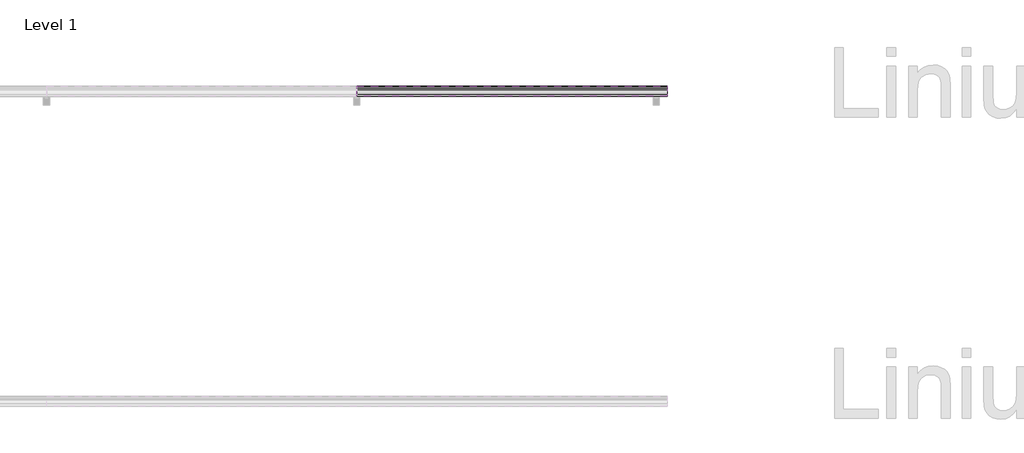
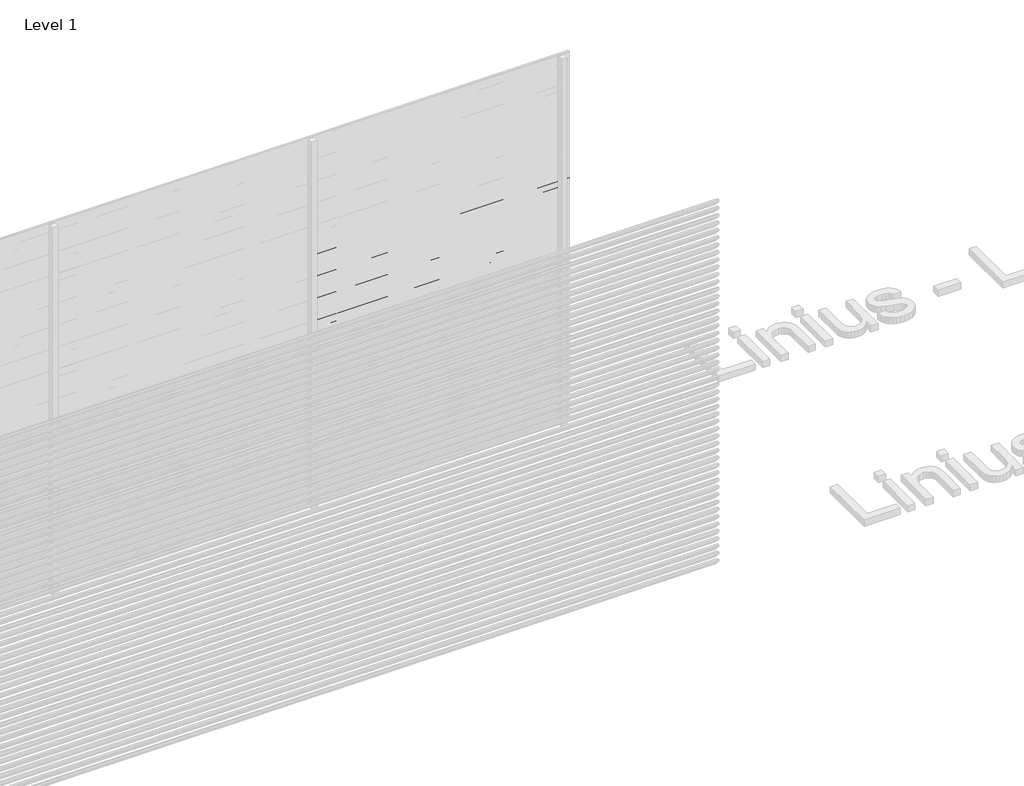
# One storey, part 101 of 153: 33 proxies.
"""IFC4 building model written with IfcOpenShell, lengths in millimetres."""

from ifc_helpers import new_model, si_unit, point, frame, frame_2d, origin, place, context, project, spatial, polyline, circle_curve, trimmed, segment, composite_curve, outline, extrude, element, save

model = new_model("IFC4")

# Units and contexts
model_context = context("Model", 3, world=origin())
ifc_project = project(units=[si_unit("LENGTHUNIT", "METRE", prefix="MILLI")], contexts=[model_context])

# Site, building, storey
site = spatial("IfcSite", under=ifc_project)
building = spatial("IfcBuilding", under=site)
storey = spatial("IfcBuildingStorey", under=building, Name="Level 1", Elevation=0.0)

# Proxies
placement = place(None, origin())
element("IfcBuildingElementProxy", 1, Name="Wall Sweeps", at=placement, inside=storey, context=model_context, shape_type="SweptSolid", body=[
    extrude(outline(composite_curve([segment(polyline([(36485.0540136, 2100.0), (36499.874191, 2098.7034025), (36549.0540136, 2045.0102749), (36549.0540136, 2033.6108187)]), True, "CONTINUOUS"), segment(trimmed(circle_curve(frame_2d((36545.7883652, 2033.897153)), 3.2781774), [point((36549.0540136, 2033.6108187))], [point((36546.4639442, 2030.6893438))], False, "CARTESIAN"), True, "CONTINUOUS"), segment(polyline([(36546.4639442, 2030.6893438), (36534.1895723, 2031.6282758), (36485.0540136, 2085.2730773), (36485.0540136, 2100.0)]), True, "CONTINUOUS")], self_intersect=False), holes=[composite_curve([segment(polyline([(36499.1621773, 2097.2599659), (36486.5540136, 2098.3630372), (36486.5540136, 2085.856213), (36534.8952036, 2033.0786805), (36546.3312542, 2032.2038762)]), True, "CONTINUOUS"), segment(trimmed(circle_curve(frame_2d((36545.7883652, 2033.897153)), 1.7781774), [point((36546.3312542, 2032.2038762))], [point((36547.5540136, 2033.6864389))], True, "CARTESIAN"), True, "CONTINUOUS"), segment(polyline([(36547.5540136, 2033.6864389), (36547.5540136, 2044.4271392), (36499.1621773, 2097.2599659)]), True, "CONTINUOUS")], self_intersect=False)]), frame((48966.6208096, 0.0, 0.0), z_axis=(1.0, 0.0, 0.0), x_axis=(0.0, 1.0, 0.0)), (0.0, 0.0, 1.0), 2000.0000001),
])
element("IfcBuildingElementProxy", 2, Name="Wall Sweeps", at=placement, inside=storey, context=model_context, shape_type="SweptSolid", body=[
    extrude(outline(composite_curve([segment(polyline([(36485.0540136, 2040.0), (36499.874191, 2038.7034025), (36549.0540136, 1985.0102749), (36549.0540136, 1973.6108187)]), True, "CONTINUOUS"), segment(trimmed(circle_curve(frame_2d((36545.7883652, 1973.897153)), 3.2781774), [point((36549.0540136, 1973.6108187))], [point((36546.4639442, 1970.6893438))], False, "CARTESIAN"), True, "CONTINUOUS"), segment(polyline([(36546.4639442, 1970.6893438), (36534.1895723, 1971.6282758), (36485.0540136, 2025.2730773), (36485.0540136, 2040.0)]), True, "CONTINUOUS")], self_intersect=False), holes=[composite_curve([segment(polyline([(36499.1621773, 2037.2599659), (36486.5540136, 2038.3630372), (36486.5540136, 2025.856213), (36534.8952036, 1973.0786805), (36546.3312542, 1972.2038762)]), True, "CONTINUOUS"), segment(trimmed(circle_curve(frame_2d((36545.7883652, 1973.897153)), 1.7781774), [point((36546.3312542, 1972.2038762))], [point((36547.5540136, 1973.6864389))], True, "CARTESIAN"), True, "CONTINUOUS"), segment(polyline([(36547.5540136, 1973.6864389), (36547.5540136, 1984.4271392), (36499.1621773, 2037.2599659)]), True, "CONTINUOUS")], self_intersect=False)]), frame((48966.6208096, 0.0, 0.0), z_axis=(1.0, 0.0, 0.0), x_axis=(0.0, 1.0, 0.0)), (0.0, 0.0, 1.0), 2000.0000001),
])
element("IfcBuildingElementProxy", 3, Name="Wall Sweeps", at=placement, inside=storey, context=model_context, shape_type="SweptSolid", body=[
    extrude(outline(composite_curve([segment(polyline([(36485.0540136, 1980.0), (36499.874191, 1978.7034025), (36549.0540136, 1925.0102749), (36549.0540136, 1913.6108187)]), True, "CONTINUOUS"), segment(trimmed(circle_curve(frame_2d((36545.7883652, 1913.897153)), 3.2781774), [point((36549.0540136, 1913.6108187))], [point((36546.4639442, 1910.6893438))], False, "CARTESIAN"), True, "CONTINUOUS"), segment(polyline([(36546.4639442, 1910.6893438), (36534.1895723, 1911.6282758), (36485.0540136, 1965.2730773), (36485.0540136, 1980.0)]), True, "CONTINUOUS")], self_intersect=False), holes=[composite_curve([segment(polyline([(36499.1621773, 1977.2599659), (36486.5540136, 1978.3630372), (36486.5540136, 1965.856213), (36534.8952036, 1913.0786805), (36546.3312542, 1912.2038762)]), True, "CONTINUOUS"), segment(trimmed(circle_curve(frame_2d((36545.7883652, 1913.897153)), 1.7781774), [point((36546.3312542, 1912.2038762))], [point((36547.5540136, 1913.6864389))], True, "CARTESIAN"), True, "CONTINUOUS"), segment(polyline([(36547.5540136, 1913.6864389), (36547.5540136, 1924.4271392), (36499.1621773, 1977.2599659)]), True, "CONTINUOUS")], self_intersect=False)]), frame((48966.6208096, 0.0, 0.0), z_axis=(1.0, 0.0, 0.0), x_axis=(0.0, 1.0, 0.0)), (0.0, 0.0, 1.0), 2000.0000001),
])
element("IfcBuildingElementProxy", 4, Name="Wall Sweeps", at=placement, inside=storey, context=model_context, shape_type="SweptSolid", body=[
    extrude(outline(composite_curve([segment(polyline([(36485.0540136, 1920.0), (36499.874191, 1918.7034025), (36549.0540136, 1865.0102749), (36549.0540136, 1853.6108187)]), True, "CONTINUOUS"), segment(trimmed(circle_curve(frame_2d((36545.7883652, 1853.897153)), 3.2781774), [point((36549.0540136, 1853.6108187))], [point((36546.4639442, 1850.6893438))], False, "CARTESIAN"), True, "CONTINUOUS"), segment(polyline([(36546.4639442, 1850.6893438), (36534.1895723, 1851.6282758), (36485.0540136, 1905.2730773), (36485.0540136, 1920.0)]), True, "CONTINUOUS")], self_intersect=False), holes=[composite_curve([segment(polyline([(36499.1621773, 1917.2599659), (36486.5540136, 1918.3630372), (36486.5540136, 1905.856213), (36534.8952036, 1853.0786805), (36546.3312542, 1852.2038762)]), True, "CONTINUOUS"), segment(trimmed(circle_curve(frame_2d((36545.7883652, 1853.897153)), 1.7781774), [point((36546.3312542, 1852.2038762))], [point((36547.5540136, 1853.6864389))], True, "CARTESIAN"), True, "CONTINUOUS"), segment(polyline([(36547.5540136, 1853.6864389), (36547.5540136, 1864.4271392), (36499.1621773, 1917.2599659)]), True, "CONTINUOUS")], self_intersect=False)]), frame((48966.6208096, 0.0, 0.0), z_axis=(1.0, 0.0, 0.0), x_axis=(0.0, 1.0, 0.0)), (0.0, 0.0, 1.0), 2000.0000001),
])
element("IfcBuildingElementProxy", 5, Name="Wall Sweeps", at=placement, inside=storey, context=model_context, shape_type="SweptSolid", body=[
    extrude(outline(composite_curve([segment(polyline([(36485.0540136, 1860.0), (36499.874191, 1858.7034025), (36549.0540136, 1805.0102749), (36549.0540136, 1793.6108187)]), True, "CONTINUOUS"), segment(trimmed(circle_curve(frame_2d((36545.7883652, 1793.897153)), 3.2781774), [point((36549.0540136, 1793.6108187))], [point((36546.4639442, 1790.6893438))], False, "CARTESIAN"), True, "CONTINUOUS"), segment(polyline([(36546.4639442, 1790.6893438), (36534.1895723, 1791.6282758), (36485.0540136, 1845.2730773), (36485.0540136, 1860.0)]), True, "CONTINUOUS")], self_intersect=False), holes=[composite_curve([segment(polyline([(36499.1621773, 1857.2599659), (36486.5540136, 1858.3630372), (36486.5540136, 1845.856213), (36534.8952036, 1793.0786805), (36546.3312542, 1792.2038762)]), True, "CONTINUOUS"), segment(trimmed(circle_curve(frame_2d((36545.7883652, 1793.897153)), 1.7781774), [point((36546.3312542, 1792.2038762))], [point((36547.5540136, 1793.6864389))], True, "CARTESIAN"), True, "CONTINUOUS"), segment(polyline([(36547.5540136, 1793.6864389), (36547.5540136, 1804.4271392), (36499.1621773, 1857.2599659)]), True, "CONTINUOUS")], self_intersect=False)]), frame((48966.6208096, 0.0, 0.0), z_axis=(1.0, 0.0, 0.0), x_axis=(0.0, 1.0, 0.0)), (0.0, 0.0, 1.0), 2000.0000001),
])
element("IfcBuildingElementProxy", 6, Name="Wall Sweeps", at=placement, inside=storey, context=model_context, shape_type="SweptSolid", body=[
    extrude(outline(composite_curve([segment(polyline([(36485.0540136, 1800.0), (36499.874191, 1798.7034025), (36549.0540136, 1745.0102749), (36549.0540136, 1733.6108187)]), True, "CONTINUOUS"), segment(trimmed(circle_curve(frame_2d((36545.7883652, 1733.897153)), 3.2781774), [point((36549.0540136, 1733.6108187))], [point((36546.4639442, 1730.6893438))], False, "CARTESIAN"), True, "CONTINUOUS"), segment(polyline([(36546.4639442, 1730.6893438), (36534.1895723, 1731.6282758), (36485.0540136, 1785.2730773), (36485.0540136, 1800.0)]), True, "CONTINUOUS")], self_intersect=False), holes=[composite_curve([segment(polyline([(36499.1621773, 1797.2599659), (36486.5540136, 1798.3630372), (36486.5540136, 1785.856213), (36534.8952036, 1733.0786805), (36546.3312542, 1732.2038762)]), True, "CONTINUOUS"), segment(trimmed(circle_curve(frame_2d((36545.7883652, 1733.897153)), 1.7781774), [point((36546.3312542, 1732.2038762))], [point((36547.5540136, 1733.6864389))], True, "CARTESIAN"), True, "CONTINUOUS"), segment(polyline([(36547.5540136, 1733.6864389), (36547.5540136, 1744.4271392), (36499.1621773, 1797.2599659)]), True, "CONTINUOUS")], self_intersect=False)]), frame((48966.6208096, 0.0, 0.0), z_axis=(1.0, 0.0, 0.0), x_axis=(0.0, 1.0, 0.0)), (0.0, 0.0, 1.0), 2000.0000001),
])
element("IfcBuildingElementProxy", 7, Name="Wall Sweeps", at=placement, inside=storey, context=model_context, shape_type="SweptSolid", body=[
    extrude(outline(composite_curve([segment(polyline([(36485.0540136, 1740.0), (36499.874191, 1738.7034025), (36549.0540136, 1685.0102749), (36549.0540136, 1673.6108187)]), True, "CONTINUOUS"), segment(trimmed(circle_curve(frame_2d((36545.7883652, 1673.897153)), 3.2781774), [point((36549.0540136, 1673.6108187))], [point((36546.4639442, 1670.6893438))], False, "CARTESIAN"), True, "CONTINUOUS"), segment(polyline([(36546.4639442, 1670.6893438), (36534.1895723, 1671.6282758), (36485.0540136, 1725.2730773), (36485.0540136, 1740.0)]), True, "CONTINUOUS")], self_intersect=False), holes=[composite_curve([segment(polyline([(36499.1621773, 1737.2599659), (36486.5540136, 1738.3630372), (36486.5540136, 1725.856213), (36534.8952036, 1673.0786805), (36546.3312542, 1672.2038762)]), True, "CONTINUOUS"), segment(trimmed(circle_curve(frame_2d((36545.7883652, 1673.897153)), 1.7781774), [point((36546.3312542, 1672.2038762))], [point((36547.5540136, 1673.6864389))], True, "CARTESIAN"), True, "CONTINUOUS"), segment(polyline([(36547.5540136, 1673.6864389), (36547.5540136, 1684.4271392), (36499.1621773, 1737.2599659)]), True, "CONTINUOUS")], self_intersect=False)]), frame((48966.6208096, 0.0, 0.0), z_axis=(1.0, 0.0, 0.0), x_axis=(0.0, 1.0, 0.0)), (0.0, 0.0, 1.0), 2000.0000001),
])
element("IfcBuildingElementProxy", 8, Name="Wall Sweeps", at=placement, inside=storey, context=model_context, shape_type="SweptSolid", body=[
    extrude(outline(composite_curve([segment(polyline([(36485.0540136, 1680.0), (36499.874191, 1678.7034025), (36549.0540136, 1625.0102749), (36549.0540136, 1613.6108187)]), True, "CONTINUOUS"), segment(trimmed(circle_curve(frame_2d((36545.7883652, 1613.897153)), 3.2781774), [point((36549.0540136, 1613.6108187))], [point((36546.4639442, 1610.6893438))], False, "CARTESIAN"), True, "CONTINUOUS"), segment(polyline([(36546.4639442, 1610.6893438), (36534.1895723, 1611.6282758), (36485.0540136, 1665.2730773), (36485.0540136, 1680.0)]), True, "CONTINUOUS")], self_intersect=False), holes=[composite_curve([segment(polyline([(36499.1621773, 1677.2599659), (36486.5540136, 1678.3630372), (36486.5540136, 1665.856213), (36534.8952036, 1613.0786805), (36546.3312542, 1612.2038762)]), True, "CONTINUOUS"), segment(trimmed(circle_curve(frame_2d((36545.7883652, 1613.897153)), 1.7781774), [point((36546.3312542, 1612.2038762))], [point((36547.5540136, 1613.6864389))], True, "CARTESIAN"), True, "CONTINUOUS"), segment(polyline([(36547.5540136, 1613.6864389), (36547.5540136, 1624.4271392), (36499.1621773, 1677.2599659)]), True, "CONTINUOUS")], self_intersect=False)]), frame((48966.6208096, 0.0, 0.0), z_axis=(1.0, 0.0, 0.0), x_axis=(0.0, 1.0, 0.0)), (0.0, 0.0, 1.0), 2000.0000001),
])
element("IfcBuildingElementProxy", 9, Name="Wall Sweeps", at=placement, inside=storey, context=model_context, shape_type="SweptSolid", body=[
    extrude(outline(composite_curve([segment(polyline([(36485.0540136, 1620.0), (36499.874191, 1618.7034025), (36549.0540136, 1565.0102749), (36549.0540136, 1553.6108187)]), True, "CONTINUOUS"), segment(trimmed(circle_curve(frame_2d((36545.7883652, 1553.897153)), 3.2781774), [point((36549.0540136, 1553.6108187))], [point((36546.4639442, 1550.6893438))], False, "CARTESIAN"), True, "CONTINUOUS"), segment(polyline([(36546.4639442, 1550.6893438), (36534.1895723, 1551.6282758), (36485.0540136, 1605.2730773), (36485.0540136, 1620.0)]), True, "CONTINUOUS")], self_intersect=False), holes=[composite_curve([segment(polyline([(36499.1621773, 1617.2599659), (36486.5540136, 1618.3630372), (36486.5540136, 1605.856213), (36534.8952036, 1553.0786805), (36546.3312542, 1552.2038762)]), True, "CONTINUOUS"), segment(trimmed(circle_curve(frame_2d((36545.7883652, 1553.897153)), 1.7781774), [point((36546.3312542, 1552.2038762))], [point((36547.5540136, 1553.6864389))], True, "CARTESIAN"), True, "CONTINUOUS"), segment(polyline([(36547.5540136, 1553.6864389), (36547.5540136, 1564.4271392), (36499.1621773, 1617.2599659)]), True, "CONTINUOUS")], self_intersect=False)]), frame((48966.6208096, 0.0, 0.0), z_axis=(1.0, 0.0, 0.0), x_axis=(0.0, 1.0, 0.0)), (0.0, 0.0, 1.0), 2000.0000001),
])
element("IfcBuildingElementProxy", 10, Name="Wall Sweeps", at=placement, inside=storey, context=model_context, shape_type="SweptSolid", body=[
    extrude(outline(composite_curve([segment(polyline([(36485.0540136, 1560.0), (36499.874191, 1558.7034025), (36549.0540136, 1505.0102749), (36549.0540136, 1493.6108187)]), True, "CONTINUOUS"), segment(trimmed(circle_curve(frame_2d((36545.7883652, 1493.897153)), 3.2781774), [point((36549.0540136, 1493.6108187))], [point((36546.4639442, 1490.6893438))], False, "CARTESIAN"), True, "CONTINUOUS"), segment(polyline([(36546.4639442, 1490.6893438), (36534.1895723, 1491.6282758), (36485.0540136, 1545.2730773), (36485.0540136, 1560.0)]), True, "CONTINUOUS")], self_intersect=False), holes=[composite_curve([segment(polyline([(36499.1621773, 1557.2599659), (36486.5540136, 1558.3630372), (36486.5540136, 1545.856213), (36534.8952036, 1493.0786805), (36546.3312542, 1492.2038762)]), True, "CONTINUOUS"), segment(trimmed(circle_curve(frame_2d((36545.7883652, 1493.897153)), 1.7781774), [point((36546.3312542, 1492.2038762))], [point((36547.5540136, 1493.6864389))], True, "CARTESIAN"), True, "CONTINUOUS"), segment(polyline([(36547.5540136, 1493.6864389), (36547.5540136, 1504.4271392), (36499.1621773, 1557.2599659)]), True, "CONTINUOUS")], self_intersect=False)]), frame((48966.6208096, 0.0, 0.0), z_axis=(1.0, 0.0, 0.0), x_axis=(0.0, 1.0, 0.0)), (0.0, 0.0, 1.0), 2000.0000001),
])
element("IfcBuildingElementProxy", 11, Name="Wall Sweeps", at=placement, inside=storey, context=model_context, shape_type="SweptSolid", body=[
    extrude(outline(composite_curve([segment(polyline([(36485.0540136, 1500.0), (36499.874191, 1498.7034025), (36549.0540136, 1445.0102749), (36549.0540136, 1433.6108187)]), True, "CONTINUOUS"), segment(trimmed(circle_curve(frame_2d((36545.7883652, 1433.897153)), 3.2781774), [point((36549.0540136, 1433.6108187))], [point((36546.4639442, 1430.6893438))], False, "CARTESIAN"), True, "CONTINUOUS"), segment(polyline([(36546.4639442, 1430.6893438), (36534.1895723, 1431.6282758), (36485.0540136, 1485.2730773), (36485.0540136, 1500.0)]), True, "CONTINUOUS")], self_intersect=False), holes=[composite_curve([segment(polyline([(36499.1621773, 1497.2599659), (36486.5540136, 1498.3630372), (36486.5540136, 1485.856213), (36534.8952036, 1433.0786805), (36546.3312542, 1432.2038762)]), True, "CONTINUOUS"), segment(trimmed(circle_curve(frame_2d((36545.7883652, 1433.897153)), 1.7781774), [point((36546.3312542, 1432.2038762))], [point((36547.5540136, 1433.6864389))], True, "CARTESIAN"), True, "CONTINUOUS"), segment(polyline([(36547.5540136, 1433.6864389), (36547.5540136, 1444.4271392), (36499.1621773, 1497.2599659)]), True, "CONTINUOUS")], self_intersect=False)]), frame((48966.6208096, 0.0, 0.0), z_axis=(1.0, 0.0, 0.0), x_axis=(0.0, 1.0, 0.0)), (0.0, 0.0, 1.0), 2000.0000001),
])
element("IfcBuildingElementProxy", 12, Name="Wall Sweeps", at=placement, inside=storey, context=model_context, shape_type="SweptSolid", body=[
    extrude(outline(composite_curve([segment(polyline([(36485.0540136, 1440.0), (36499.874191, 1438.7034025), (36549.0540136, 1385.0102749), (36549.0540136, 1373.6108187)]), True, "CONTINUOUS"), segment(trimmed(circle_curve(frame_2d((36545.7883652, 1373.897153)), 3.2781774), [point((36549.0540136, 1373.6108187))], [point((36546.4639442, 1370.6893438))], False, "CARTESIAN"), True, "CONTINUOUS"), segment(polyline([(36546.4639442, 1370.6893438), (36534.1895723, 1371.6282758), (36485.0540136, 1425.2730773), (36485.0540136, 1440.0)]), True, "CONTINUOUS")], self_intersect=False), holes=[composite_curve([segment(polyline([(36499.1621773, 1437.2599659), (36486.5540136, 1438.3630372), (36486.5540136, 1425.856213), (36534.8952036, 1373.0786805), (36546.3312542, 1372.2038762)]), True, "CONTINUOUS"), segment(trimmed(circle_curve(frame_2d((36545.7883652, 1373.897153)), 1.7781774), [point((36546.3312542, 1372.2038762))], [point((36547.5540136, 1373.6864389))], True, "CARTESIAN"), True, "CONTINUOUS"), segment(polyline([(36547.5540136, 1373.6864389), (36547.5540136, 1384.4271392), (36499.1621773, 1437.2599659)]), True, "CONTINUOUS")], self_intersect=False)]), frame((48966.6208096, 0.0, 0.0), z_axis=(1.0, 0.0, 0.0), x_axis=(0.0, 1.0, 0.0)), (0.0, 0.0, 1.0), 2000.0000001),
])
element("IfcBuildingElementProxy", 13, Name="Wall Sweeps", at=placement, inside=storey, context=model_context, shape_type="SweptSolid", body=[
    extrude(outline(composite_curve([segment(polyline([(36485.0540136, 1380.0), (36499.874191, 1378.7034025), (36549.0540136, 1325.0102749), (36549.0540136, 1313.6108187)]), True, "CONTINUOUS"), segment(trimmed(circle_curve(frame_2d((36545.7883652, 1313.897153)), 3.2781774), [point((36549.0540136, 1313.6108187))], [point((36546.4639442, 1310.6893438))], False, "CARTESIAN"), True, "CONTINUOUS"), segment(polyline([(36546.4639442, 1310.6893438), (36534.1895723, 1311.6282758), (36485.0540136, 1365.2730773), (36485.0540136, 1380.0)]), True, "CONTINUOUS")], self_intersect=False), holes=[composite_curve([segment(polyline([(36499.1621773, 1377.2599659), (36486.5540136, 1378.3630372), (36486.5540136, 1365.856213), (36534.8952036, 1313.0786805), (36546.3312542, 1312.2038762)]), True, "CONTINUOUS"), segment(trimmed(circle_curve(frame_2d((36545.7883652, 1313.897153)), 1.7781774), [point((36546.3312542, 1312.2038762))], [point((36547.5540136, 1313.6864389))], True, "CARTESIAN"), True, "CONTINUOUS"), segment(polyline([(36547.5540136, 1313.6864389), (36547.5540136, 1324.4271392), (36499.1621773, 1377.2599659)]), True, "CONTINUOUS")], self_intersect=False)]), frame((48966.6208096, 0.0, 0.0), z_axis=(1.0, 0.0, 0.0), x_axis=(0.0, 1.0, 0.0)), (0.0, 0.0, 1.0), 2000.0000001),
])
element("IfcBuildingElementProxy", 14, Name="Wall Sweeps", at=placement, inside=storey, context=model_context, shape_type="SweptSolid", body=[
    extrude(outline(composite_curve([segment(polyline([(36485.0540136, 1320.0), (36499.874191, 1318.7034025), (36549.0540136, 1265.0102749), (36549.0540136, 1253.6108187)]), True, "CONTINUOUS"), segment(trimmed(circle_curve(frame_2d((36545.7883652, 1253.897153)), 3.2781774), [point((36549.0540136, 1253.6108187))], [point((36546.4639442, 1250.6893438))], False, "CARTESIAN"), True, "CONTINUOUS"), segment(polyline([(36546.4639442, 1250.6893438), (36534.1895723, 1251.6282758), (36485.0540136, 1305.2730773), (36485.0540136, 1320.0)]), True, "CONTINUOUS")], self_intersect=False), holes=[composite_curve([segment(polyline([(36499.1621773, 1317.2599659), (36486.5540136, 1318.3630372), (36486.5540136, 1305.856213), (36534.8952036, 1253.0786805), (36546.3312542, 1252.2038762)]), True, "CONTINUOUS"), segment(trimmed(circle_curve(frame_2d((36545.7883652, 1253.897153)), 1.7781774), [point((36546.3312542, 1252.2038762))], [point((36547.5540136, 1253.6864389))], True, "CARTESIAN"), True, "CONTINUOUS"), segment(polyline([(36547.5540136, 1253.6864389), (36547.5540136, 1264.4271392), (36499.1621773, 1317.2599659)]), True, "CONTINUOUS")], self_intersect=False)]), frame((48966.6208096, 0.0, 0.0), z_axis=(1.0, 0.0, 0.0), x_axis=(0.0, 1.0, 0.0)), (0.0, 0.0, 1.0), 2000.0000001),
])
element("IfcBuildingElementProxy", 15, Name="Wall Sweeps", at=placement, inside=storey, context=model_context, shape_type="SweptSolid", body=[
    extrude(outline(composite_curve([segment(polyline([(36485.0540136, 1260.0), (36499.874191, 1258.7034025), (36549.0540136, 1205.0102749), (36549.0540136, 1193.6108187)]), True, "CONTINUOUS"), segment(trimmed(circle_curve(frame_2d((36545.7883652, 1193.897153)), 3.2781774), [point((36549.0540136, 1193.6108187))], [point((36546.4639442, 1190.6893438))], False, "CARTESIAN"), True, "CONTINUOUS"), segment(polyline([(36546.4639442, 1190.6893438), (36534.1895723, 1191.6282758), (36485.0540136, 1245.2730773), (36485.0540136, 1260.0)]), True, "CONTINUOUS")], self_intersect=False), holes=[composite_curve([segment(polyline([(36499.1621773, 1257.2599659), (36486.5540136, 1258.3630372), (36486.5540136, 1245.856213), (36534.8952036, 1193.0786805), (36546.3312542, 1192.2038762)]), True, "CONTINUOUS"), segment(trimmed(circle_curve(frame_2d((36545.7883652, 1193.897153)), 1.7781774), [point((36546.3312542, 1192.2038762))], [point((36547.5540136, 1193.6864389))], True, "CARTESIAN"), True, "CONTINUOUS"), segment(polyline([(36547.5540136, 1193.6864389), (36547.5540136, 1204.4271392), (36499.1621773, 1257.2599659)]), True, "CONTINUOUS")], self_intersect=False)]), frame((48966.6208096, 0.0, 0.0), z_axis=(1.0, 0.0, 0.0), x_axis=(0.0, 1.0, 0.0)), (0.0, 0.0, 1.0), 2000.0000001),
])
element("IfcBuildingElementProxy", 16, Name="Wall Sweeps", at=placement, inside=storey, context=model_context, shape_type="SweptSolid", body=[
    extrude(outline(composite_curve([segment(polyline([(36485.0540136, 1200.0), (36499.874191, 1198.7034025), (36549.0540136, 1145.0102749), (36549.0540136, 1133.6108187)]), True, "CONTINUOUS"), segment(trimmed(circle_curve(frame_2d((36545.7883652, 1133.897153)), 3.2781774), [point((36549.0540136, 1133.6108187))], [point((36546.4639442, 1130.6893438))], False, "CARTESIAN"), True, "CONTINUOUS"), segment(polyline([(36546.4639442, 1130.6893438), (36534.1895723, 1131.6282758), (36485.0540136, 1185.2730773), (36485.0540136, 1200.0)]), True, "CONTINUOUS")], self_intersect=False), holes=[composite_curve([segment(polyline([(36499.1621773, 1197.2599659), (36486.5540136, 1198.3630372), (36486.5540136, 1185.856213), (36534.8952036, 1133.0786805), (36546.3312542, 1132.2038762)]), True, "CONTINUOUS"), segment(trimmed(circle_curve(frame_2d((36545.7883652, 1133.897153)), 1.7781774), [point((36546.3312542, 1132.2038762))], [point((36547.5540136, 1133.6864389))], True, "CARTESIAN"), True, "CONTINUOUS"), segment(polyline([(36547.5540136, 1133.6864389), (36547.5540136, 1144.4271392), (36499.1621773, 1197.2599659)]), True, "CONTINUOUS")], self_intersect=False)]), frame((48966.6208096, 0.0, 0.0), z_axis=(1.0, 0.0, 0.0), x_axis=(0.0, 1.0, 0.0)), (0.0, 0.0, 1.0), 2000.0000001),
])
element("IfcBuildingElementProxy", 17, Name="Wall Sweeps", at=placement, inside=storey, context=model_context, shape_type="SweptSolid", body=[
    extrude(outline(composite_curve([segment(polyline([(36485.0540136, 1140.0), (36499.874191, 1138.7034025), (36549.0540136, 1085.0102749), (36549.0540136, 1073.6108187)]), True, "CONTINUOUS"), segment(trimmed(circle_curve(frame_2d((36545.7883652, 1073.897153)), 3.2781774), [point((36549.0540136, 1073.6108187))], [point((36546.4639442, 1070.6893438))], False, "CARTESIAN"), True, "CONTINUOUS"), segment(polyline([(36546.4639442, 1070.6893438), (36534.1895723, 1071.6282758), (36485.0540136, 1125.2730773), (36485.0540136, 1140.0)]), True, "CONTINUOUS")], self_intersect=False), holes=[composite_curve([segment(polyline([(36499.1621773, 1137.2599659), (36486.5540136, 1138.3630372), (36486.5540136, 1125.856213), (36534.8952036, 1073.0786805), (36546.3312542, 1072.2038762)]), True, "CONTINUOUS"), segment(trimmed(circle_curve(frame_2d((36545.7883652, 1073.897153)), 1.7781774), [point((36546.3312542, 1072.2038762))], [point((36547.5540136, 1073.6864389))], True, "CARTESIAN"), True, "CONTINUOUS"), segment(polyline([(36547.5540136, 1073.6864389), (36547.5540136, 1084.4271392), (36499.1621773, 1137.2599659)]), True, "CONTINUOUS")], self_intersect=False)]), frame((48966.6208096, 0.0, 0.0), z_axis=(1.0, 0.0, 0.0), x_axis=(0.0, 1.0, 0.0)), (0.0, 0.0, 1.0), 2000.0000001),
])
element("IfcBuildingElementProxy", 18, Name="Wall Sweeps", at=placement, inside=storey, context=model_context, shape_type="SweptSolid", body=[
    extrude(outline(composite_curve([segment(polyline([(36485.0540136, 1080.0), (36499.874191, 1078.7034025), (36549.0540136, 1025.0102749), (36549.0540136, 1013.6108187)]), True, "CONTINUOUS"), segment(trimmed(circle_curve(frame_2d((36545.7883652, 1013.897153)), 3.2781774), [point((36549.0540136, 1013.6108187))], [point((36546.4639442, 1010.6893438))], False, "CARTESIAN"), True, "CONTINUOUS"), segment(polyline([(36546.4639442, 1010.6893438), (36534.1895723, 1011.6282758), (36485.0540136, 1065.2730773), (36485.0540136, 1080.0)]), True, "CONTINUOUS")], self_intersect=False), holes=[composite_curve([segment(polyline([(36499.1621773, 1077.2599659), (36486.5540136, 1078.3630372), (36486.5540136, 1065.856213), (36534.8952036, 1013.0786805), (36546.3312542, 1012.2038762)]), True, "CONTINUOUS"), segment(trimmed(circle_curve(frame_2d((36545.7883652, 1013.897153)), 1.7781774), [point((36546.3312542, 1012.2038762))], [point((36547.5540136, 1013.6864389))], True, "CARTESIAN"), True, "CONTINUOUS"), segment(polyline([(36547.5540136, 1013.6864389), (36547.5540136, 1024.4271392), (36499.1621773, 1077.2599659)]), True, "CONTINUOUS")], self_intersect=False)]), frame((48966.6208096, 0.0, 0.0), z_axis=(1.0, 0.0, 0.0), x_axis=(0.0, 1.0, 0.0)), (0.0, 0.0, 1.0), 2000.0000001),
])
element("IfcBuildingElementProxy", 19, Name="Wall Sweeps", at=placement, inside=storey, context=model_context, shape_type="SweptSolid", body=[
    extrude(outline(composite_curve([segment(polyline([(36485.0540136, 1020.0), (36499.874191, 1018.7034025), (36549.0540136, 965.0102749), (36549.0540136, 953.6108187)]), True, "CONTINUOUS"), segment(trimmed(circle_curve(frame_2d((36545.7883652, 953.897153)), 3.2781774), [point((36549.0540136, 953.6108187))], [point((36546.4639442, 950.6893438))], False, "CARTESIAN"), True, "CONTINUOUS"), segment(polyline([(36546.4639442, 950.6893438), (36534.1895723, 951.6282758), (36485.0540136, 1005.2730773), (36485.0540136, 1020.0)]), True, "CONTINUOUS")], self_intersect=False), holes=[composite_curve([segment(polyline([(36499.1621773, 1017.2599659), (36486.5540136, 1018.3630372), (36486.5540136, 1005.856213), (36534.8952036, 953.0786805), (36546.3312542, 952.2038762)]), True, "CONTINUOUS"), segment(trimmed(circle_curve(frame_2d((36545.7883652, 953.897153)), 1.7781774), [point((36546.3312542, 952.2038762))], [point((36547.5540136, 953.6864389))], True, "CARTESIAN"), True, "CONTINUOUS"), segment(polyline([(36547.5540136, 953.6864389), (36547.5540136, 964.4271392), (36499.1621773, 1017.2599659)]), True, "CONTINUOUS")], self_intersect=False)]), frame((48966.6208096, 0.0, 0.0), z_axis=(1.0, 0.0, 0.0), x_axis=(0.0, 1.0, 0.0)), (0.0, 0.0, 1.0), 2000.0000001),
])
element("IfcBuildingElementProxy", 20, Name="Wall Sweeps", at=placement, inside=storey, context=model_context, shape_type="SweptSolid", body=[
    extrude(outline(composite_curve([segment(polyline([(36485.0540136, 960.0), (36499.874191, 958.7034025), (36549.0540136, 905.0102749), (36549.0540136, 893.6108187)]), True, "CONTINUOUS"), segment(trimmed(circle_curve(frame_2d((36545.7883652, 893.897153)), 3.2781774), [point((36549.0540136, 893.6108187))], [point((36546.4639442, 890.6893438))], False, "CARTESIAN"), True, "CONTINUOUS"), segment(polyline([(36546.4639442, 890.6893438), (36534.1895723, 891.6282758), (36485.0540136, 945.2730773), (36485.0540136, 960.0)]), True, "CONTINUOUS")], self_intersect=False), holes=[composite_curve([segment(polyline([(36499.1621773, 957.2599659), (36486.5540136, 958.3630372), (36486.5540136, 945.856213), (36534.8952036, 893.0786805), (36546.3312542, 892.2038762)]), True, "CONTINUOUS"), segment(trimmed(circle_curve(frame_2d((36545.7883652, 893.897153)), 1.7781774), [point((36546.3312542, 892.2038762))], [point((36547.5540136, 893.6864389))], True, "CARTESIAN"), True, "CONTINUOUS"), segment(polyline([(36547.5540136, 893.6864389), (36547.5540136, 904.4271392), (36499.1621773, 957.2599659)]), True, "CONTINUOUS")], self_intersect=False)]), frame((48966.6208096, 0.0, 0.0), z_axis=(1.0, 0.0, 0.0), x_axis=(0.0, 1.0, 0.0)), (0.0, 0.0, 1.0), 2000.0000001),
])
element("IfcBuildingElementProxy", 21, Name="Wall Sweeps", at=placement, inside=storey, context=model_context, shape_type="SweptSolid", body=[
    extrude(outline(composite_curve([segment(polyline([(36485.0540136, 900.0), (36499.874191, 898.7034025), (36549.0540136, 845.0102749), (36549.0540136, 833.6108187)]), True, "CONTINUOUS"), segment(trimmed(circle_curve(frame_2d((36545.7883652, 833.897153)), 3.2781774), [point((36549.0540136, 833.6108187))], [point((36546.4639442, 830.6893438))], False, "CARTESIAN"), True, "CONTINUOUS"), segment(polyline([(36546.4639442, 830.6893438), (36534.1895723, 831.6282758), (36485.0540136, 885.2730773), (36485.0540136, 900.0)]), True, "CONTINUOUS")], self_intersect=False), holes=[composite_curve([segment(polyline([(36499.1621773, 897.2599659), (36486.5540136, 898.3630372), (36486.5540136, 885.856213), (36534.8952036, 833.0786805), (36546.3312542, 832.2038762)]), True, "CONTINUOUS"), segment(trimmed(circle_curve(frame_2d((36545.7883652, 833.897153)), 1.7781774), [point((36546.3312542, 832.2038762))], [point((36547.5540136, 833.6864389))], True, "CARTESIAN"), True, "CONTINUOUS"), segment(polyline([(36547.5540136, 833.6864389), (36547.5540136, 844.4271392), (36499.1621773, 897.2599659)]), True, "CONTINUOUS")], self_intersect=False)]), frame((48966.6208096, 0.0, 0.0), z_axis=(1.0, 0.0, 0.0), x_axis=(0.0, 1.0, 0.0)), (0.0, 0.0, 1.0), 2000.0000001),
])
element("IfcBuildingElementProxy", 22, Name="Wall Sweeps", at=placement, inside=storey, context=model_context, shape_type="SweptSolid", body=[
    extrude(outline(composite_curve([segment(polyline([(36485.0540136, 840.0), (36499.874191, 838.7034025), (36549.0540136, 785.0102749), (36549.0540136, 773.6108187)]), True, "CONTINUOUS"), segment(trimmed(circle_curve(frame_2d((36545.7883652, 773.897153)), 3.2781774), [point((36549.0540136, 773.6108187))], [point((36546.4639442, 770.6893438))], False, "CARTESIAN"), True, "CONTINUOUS"), segment(polyline([(36546.4639442, 770.6893438), (36534.1895723, 771.6282758), (36485.0540136, 825.2730773), (36485.0540136, 840.0)]), True, "CONTINUOUS")], self_intersect=False), holes=[composite_curve([segment(polyline([(36499.1621773, 837.2599659), (36486.5540136, 838.3630372), (36486.5540136, 825.856213), (36534.8952036, 773.0786805), (36546.3312542, 772.2038762)]), True, "CONTINUOUS"), segment(trimmed(circle_curve(frame_2d((36545.7883652, 773.897153)), 1.7781774), [point((36546.3312542, 772.2038762))], [point((36547.5540136, 773.6864389))], True, "CARTESIAN"), True, "CONTINUOUS"), segment(polyline([(36547.5540136, 773.6864389), (36547.5540136, 784.4271392), (36499.1621773, 837.2599659)]), True, "CONTINUOUS")], self_intersect=False)]), frame((48966.6208096, 0.0, 0.0), z_axis=(1.0, 0.0, 0.0), x_axis=(0.0, 1.0, 0.0)), (0.0, 0.0, 1.0), 2000.0000001),
])
element("IfcBuildingElementProxy", 23, Name="Wall Sweeps", at=placement, inside=storey, context=model_context, shape_type="SweptSolid", body=[
    extrude(outline(composite_curve([segment(polyline([(36485.0540136, 780.0), (36499.874191, 778.7034025), (36549.0540136, 725.0102749), (36549.0540136, 713.6108187)]), True, "CONTINUOUS"), segment(trimmed(circle_curve(frame_2d((36545.7883652, 713.897153)), 3.2781774), [point((36549.0540136, 713.6108187))], [point((36546.4639442, 710.6893438))], False, "CARTESIAN"), True, "CONTINUOUS"), segment(polyline([(36546.4639442, 710.6893438), (36534.1895723, 711.6282758), (36485.0540136, 765.2730773), (36485.0540136, 780.0)]), True, "CONTINUOUS")], self_intersect=False), holes=[composite_curve([segment(polyline([(36499.1621773, 777.2599659), (36486.5540136, 778.3630372), (36486.5540136, 765.856213), (36534.8952036, 713.0786805), (36546.3312542, 712.2038762)]), True, "CONTINUOUS"), segment(trimmed(circle_curve(frame_2d((36545.7883652, 713.897153)), 1.7781774), [point((36546.3312542, 712.2038762))], [point((36547.5540136, 713.6864389))], True, "CARTESIAN"), True, "CONTINUOUS"), segment(polyline([(36547.5540136, 713.6864389), (36547.5540136, 724.4271392), (36499.1621773, 777.2599659)]), True, "CONTINUOUS")], self_intersect=False)]), frame((48966.6208096, 0.0, 0.0), z_axis=(1.0, 0.0, 0.0), x_axis=(0.0, 1.0, 0.0)), (0.0, 0.0, 1.0), 2000.0000001),
])
element("IfcBuildingElementProxy", 24, Name="Wall Sweeps", at=placement, inside=storey, context=model_context, shape_type="SweptSolid", body=[
    extrude(outline(composite_curve([segment(polyline([(36485.0540136, 720.0), (36499.874191, 718.7034025), (36549.0540136, 665.0102749), (36549.0540136, 653.6108187)]), True, "CONTINUOUS"), segment(trimmed(circle_curve(frame_2d((36545.7883652, 653.897153)), 3.2781774), [point((36549.0540136, 653.6108187))], [point((36546.4639442, 650.6893438))], False, "CARTESIAN"), True, "CONTINUOUS"), segment(polyline([(36546.4639442, 650.6893438), (36534.1895723, 651.6282758), (36485.0540136, 705.2730773), (36485.0540136, 720.0)]), True, "CONTINUOUS")], self_intersect=False), holes=[composite_curve([segment(polyline([(36499.1621773, 717.2599659), (36486.5540136, 718.3630372), (36486.5540136, 705.856213), (36534.8952036, 653.0786805), (36546.3312542, 652.2038762)]), True, "CONTINUOUS"), segment(trimmed(circle_curve(frame_2d((36545.7883652, 653.897153)), 1.7781774), [point((36546.3312542, 652.2038762))], [point((36547.5540136, 653.6864389))], True, "CARTESIAN"), True, "CONTINUOUS"), segment(polyline([(36547.5540136, 653.6864389), (36547.5540136, 664.4271392), (36499.1621773, 717.2599659)]), True, "CONTINUOUS")], self_intersect=False)]), frame((48966.6208096, 0.0, 0.0), z_axis=(1.0, 0.0, 0.0), x_axis=(0.0, 1.0, 0.0)), (0.0, 0.0, 1.0), 2000.0000001),
])
element("IfcBuildingElementProxy", 25, Name="Wall Sweeps", at=placement, inside=storey, context=model_context, shape_type="SweptSolid", body=[
    extrude(outline(composite_curve([segment(polyline([(36485.0540136, 660.0), (36499.874191, 658.7034025), (36549.0540136, 605.0102749), (36549.0540136, 593.6108187)]), True, "CONTINUOUS"), segment(trimmed(circle_curve(frame_2d((36545.7883652, 593.897153)), 3.2781774), [point((36549.0540136, 593.6108187))], [point((36546.4639442, 590.6893438))], False, "CARTESIAN"), True, "CONTINUOUS"), segment(polyline([(36546.4639442, 590.6893438), (36534.1895723, 591.6282758), (36485.0540136, 645.2730773), (36485.0540136, 660.0)]), True, "CONTINUOUS")], self_intersect=False), holes=[composite_curve([segment(polyline([(36499.1621773, 657.2599659), (36486.5540136, 658.3630372), (36486.5540136, 645.856213), (36534.8952036, 593.0786805), (36546.3312542, 592.2038762)]), True, "CONTINUOUS"), segment(trimmed(circle_curve(frame_2d((36545.7883652, 593.897153)), 1.7781774), [point((36546.3312542, 592.2038762))], [point((36547.5540136, 593.6864389))], True, "CARTESIAN"), True, "CONTINUOUS"), segment(polyline([(36547.5540136, 593.6864389), (36547.5540136, 604.4271392), (36499.1621773, 657.2599659)]), True, "CONTINUOUS")], self_intersect=False)]), frame((48966.6208096, 0.0, 0.0), z_axis=(1.0, 0.0, 0.0), x_axis=(0.0, 1.0, 0.0)), (0.0, 0.0, 1.0), 2000.0000001),
])
element("IfcBuildingElementProxy", 26, Name="Wall Sweeps", at=placement, inside=storey, context=model_context, shape_type="SweptSolid", body=[
    extrude(outline(composite_curve([segment(polyline([(36485.0540136, 600.0), (36499.874191, 598.7034025), (36549.0540136, 545.0102749), (36549.0540136, 533.6108187)]), True, "CONTINUOUS"), segment(trimmed(circle_curve(frame_2d((36545.7883652, 533.897153)), 3.2781774), [point((36549.0540136, 533.6108187))], [point((36546.4639442, 530.6893438))], False, "CARTESIAN"), True, "CONTINUOUS"), segment(polyline([(36546.4639442, 530.6893438), (36534.1895723, 531.6282758), (36485.0540136, 585.2730773), (36485.0540136, 600.0)]), True, "CONTINUOUS")], self_intersect=False), holes=[composite_curve([segment(polyline([(36499.1621773, 597.2599659), (36486.5540136, 598.3630372), (36486.5540136, 585.856213), (36534.8952036, 533.0786805), (36546.3312542, 532.2038762)]), True, "CONTINUOUS"), segment(trimmed(circle_curve(frame_2d((36545.7883652, 533.897153)), 1.7781774), [point((36546.3312542, 532.2038762))], [point((36547.5540136, 533.6864389))], True, "CARTESIAN"), True, "CONTINUOUS"), segment(polyline([(36547.5540136, 533.6864389), (36547.5540136, 544.4271392), (36499.1621773, 597.2599659)]), True, "CONTINUOUS")], self_intersect=False)]), frame((48966.6208096, 0.0, 0.0), z_axis=(1.0, 0.0, 0.0), x_axis=(0.0, 1.0, 0.0)), (0.0, 0.0, 1.0), 2000.0000001),
])
element("IfcBuildingElementProxy", 27, Name="Wall Sweeps", at=placement, inside=storey, context=model_context, shape_type="SweptSolid", body=[
    extrude(outline(composite_curve([segment(polyline([(36485.0540136, 540.0), (36499.874191, 538.7034025), (36549.0540136, 485.0102749), (36549.0540136, 473.6108187)]), True, "CONTINUOUS"), segment(trimmed(circle_curve(frame_2d((36545.7883652, 473.897153)), 3.2781774), [point((36549.0540136, 473.6108187))], [point((36546.4639442, 470.6893438))], False, "CARTESIAN"), True, "CONTINUOUS"), segment(polyline([(36546.4639442, 470.6893438), (36534.1895723, 471.6282758), (36485.0540136, 525.2730773), (36485.0540136, 540.0)]), True, "CONTINUOUS")], self_intersect=False), holes=[composite_curve([segment(polyline([(36499.1621773, 537.2599659), (36486.5540136, 538.3630372), (36486.5540136, 525.856213), (36534.8952036, 473.0786805), (36546.3312542, 472.2038762)]), True, "CONTINUOUS"), segment(trimmed(circle_curve(frame_2d((36545.7883652, 473.897153)), 1.7781774), [point((36546.3312542, 472.2038762))], [point((36547.5540136, 473.6864389))], True, "CARTESIAN"), True, "CONTINUOUS"), segment(polyline([(36547.5540136, 473.6864389), (36547.5540136, 484.4271392), (36499.1621773, 537.2599659)]), True, "CONTINUOUS")], self_intersect=False)]), frame((48966.6208096, 0.0, 0.0), z_axis=(1.0, 0.0, 0.0), x_axis=(0.0, 1.0, 0.0)), (0.0, 0.0, 1.0), 2000.0000001),
])
element("IfcBuildingElementProxy", 28, Name="Wall Sweeps", at=placement, inside=storey, context=model_context, shape_type="SweptSolid", body=[
    extrude(outline(composite_curve([segment(polyline([(36485.0540136, 480.0), (36499.874191, 478.7034025), (36549.0540136, 425.0102749), (36549.0540136, 413.6108187)]), True, "CONTINUOUS"), segment(trimmed(circle_curve(frame_2d((36545.7883652, 413.897153)), 3.2781774), [point((36549.0540136, 413.6108187))], [point((36546.4639442, 410.6893438))], False, "CARTESIAN"), True, "CONTINUOUS"), segment(polyline([(36546.4639442, 410.6893438), (36534.1895723, 411.6282758), (36485.0540136, 465.2730773), (36485.0540136, 480.0)]), True, "CONTINUOUS")], self_intersect=False), holes=[composite_curve([segment(polyline([(36499.1621773, 477.2599659), (36486.5540136, 478.3630372), (36486.5540136, 465.856213), (36534.8952036, 413.0786805), (36546.3312542, 412.2038762)]), True, "CONTINUOUS"), segment(trimmed(circle_curve(frame_2d((36545.7883652, 413.897153)), 1.7781774), [point((36546.3312542, 412.2038762))], [point((36547.5540136, 413.6864389))], True, "CARTESIAN"), True, "CONTINUOUS"), segment(polyline([(36547.5540136, 413.6864389), (36547.5540136, 424.4271392), (36499.1621773, 477.2599659)]), True, "CONTINUOUS")], self_intersect=False)]), frame((48966.6208096, 0.0, 0.0), z_axis=(1.0, 0.0, 0.0), x_axis=(0.0, 1.0, 0.0)), (0.0, 0.0, 1.0), 2000.0000001),
])
element("IfcBuildingElementProxy", 29, Name="Wall Sweeps", at=placement, inside=storey, context=model_context, shape_type="SweptSolid", body=[
    extrude(outline(composite_curve([segment(polyline([(36485.0540136, 420.0), (36499.874191, 418.7034025), (36549.0540136, 365.0102749), (36549.0540136, 353.6108187)]), True, "CONTINUOUS"), segment(trimmed(circle_curve(frame_2d((36545.7883652, 353.897153)), 3.2781774), [point((36549.0540136, 353.6108187))], [point((36546.4639442, 350.6893438))], False, "CARTESIAN"), True, "CONTINUOUS"), segment(polyline([(36546.4639442, 350.6893438), (36534.1895723, 351.6282758), (36485.0540136, 405.2730773), (36485.0540136, 420.0)]), True, "CONTINUOUS")], self_intersect=False), holes=[composite_curve([segment(polyline([(36499.1621773, 417.2599659), (36486.5540136, 418.3630372), (36486.5540136, 405.856213), (36534.8952036, 353.0786805), (36546.3312542, 352.2038762)]), True, "CONTINUOUS"), segment(trimmed(circle_curve(frame_2d((36545.7883652, 353.897153)), 1.7781774), [point((36546.3312542, 352.2038762))], [point((36547.5540136, 353.6864389))], True, "CARTESIAN"), True, "CONTINUOUS"), segment(polyline([(36547.5540136, 353.6864389), (36547.5540136, 364.4271392), (36499.1621773, 417.2599659)]), True, "CONTINUOUS")], self_intersect=False)]), frame((48966.6208096, 0.0, 0.0), z_axis=(1.0, 0.0, 0.0), x_axis=(0.0, 1.0, 0.0)), (0.0, 0.0, 1.0), 2000.0000001),
])
element("IfcBuildingElementProxy", 30, Name="Wall Sweeps", at=placement, inside=storey, context=model_context, shape_type="SweptSolid", body=[
    extrude(outline(composite_curve([segment(polyline([(36485.0540136, 360.0), (36499.874191, 358.7034025), (36549.0540136, 305.0102749), (36549.0540136, 293.6108187)]), True, "CONTINUOUS"), segment(trimmed(circle_curve(frame_2d((36545.7883652, 293.897153)), 3.2781774), [point((36549.0540136, 293.6108187))], [point((36546.4639442, 290.6893438))], False, "CARTESIAN"), True, "CONTINUOUS"), segment(polyline([(36546.4639442, 290.6893438), (36534.1895723, 291.6282758), (36485.0540136, 345.2730773), (36485.0540136, 360.0)]), True, "CONTINUOUS")], self_intersect=False), holes=[composite_curve([segment(polyline([(36499.1621773, 357.2599659), (36486.5540136, 358.3630372), (36486.5540136, 345.856213), (36534.8952036, 293.0786805), (36546.3312542, 292.2038762)]), True, "CONTINUOUS"), segment(trimmed(circle_curve(frame_2d((36545.7883652, 293.897153)), 1.7781774), [point((36546.3312542, 292.2038762))], [point((36547.5540136, 293.6864389))], True, "CARTESIAN"), True, "CONTINUOUS"), segment(polyline([(36547.5540136, 293.6864389), (36547.5540136, 304.4271392), (36499.1621773, 357.2599659)]), True, "CONTINUOUS")], self_intersect=False)]), frame((48966.6208096, 0.0, 0.0), z_axis=(1.0, 0.0, 0.0), x_axis=(0.0, 1.0, 0.0)), (0.0, 0.0, 1.0), 2000.0000001),
])
element("IfcBuildingElementProxy", 31, Name="Wall Sweeps", at=placement, inside=storey, context=model_context, shape_type="SweptSolid", body=[
    extrude(outline(composite_curve([segment(polyline([(36485.0540136, 300.0), (36499.874191, 298.7034025), (36549.0540136, 245.0102749), (36549.0540136, 233.6108187)]), True, "CONTINUOUS"), segment(trimmed(circle_curve(frame_2d((36545.7883652, 233.897153)), 3.2781774), [point((36549.0540136, 233.6108187))], [point((36546.4639442, 230.6893438))], False, "CARTESIAN"), True, "CONTINUOUS"), segment(polyline([(36546.4639442, 230.6893438), (36534.1895723, 231.6282758), (36485.0540136, 285.2730773), (36485.0540136, 300.0)]), True, "CONTINUOUS")], self_intersect=False), holes=[composite_curve([segment(polyline([(36499.1621773, 297.2599659), (36486.5540136, 298.3630372), (36486.5540136, 285.856213), (36534.8952036, 233.0786805), (36546.3312542, 232.2038762)]), True, "CONTINUOUS"), segment(trimmed(circle_curve(frame_2d((36545.7883652, 233.897153)), 1.7781774), [point((36546.3312542, 232.2038762))], [point((36547.5540136, 233.6864389))], True, "CARTESIAN"), True, "CONTINUOUS"), segment(polyline([(36547.5540136, 233.6864389), (36547.5540136, 244.4271392), (36499.1621773, 297.2599659)]), True, "CONTINUOUS")], self_intersect=False)]), frame((48966.6208096, 0.0, 0.0), z_axis=(1.0, 0.0, 0.0), x_axis=(0.0, 1.0, 0.0)), (0.0, 0.0, 1.0), 2000.0000001),
])
element("IfcBuildingElementProxy", 32, Name="Wall Sweeps", at=placement, inside=storey, context=model_context, shape_type="SweptSolid", body=[
    extrude(outline(composite_curve([segment(polyline([(36485.0540136, 240.0), (36499.874191, 238.7034025), (36549.0540136, 185.0102749), (36549.0540136, 173.6108187)]), True, "CONTINUOUS"), segment(trimmed(circle_curve(frame_2d((36545.7883652, 173.897153)), 3.2781774), [point((36549.0540136, 173.6108187))], [point((36546.4639442, 170.6893438))], False, "CARTESIAN"), True, "CONTINUOUS"), segment(polyline([(36546.4639442, 170.6893438), (36534.1895723, 171.6282758), (36485.0540136, 225.2730773), (36485.0540136, 240.0)]), True, "CONTINUOUS")], self_intersect=False), holes=[composite_curve([segment(polyline([(36499.1621773, 237.2599659), (36486.5540136, 238.3630372), (36486.5540136, 225.856213), (36534.8952036, 173.0786805), (36546.3312542, 172.2038762)]), True, "CONTINUOUS"), segment(trimmed(circle_curve(frame_2d((36545.7883652, 173.897153)), 1.7781774), [point((36546.3312542, 172.2038762))], [point((36547.5540136, 173.6864389))], True, "CARTESIAN"), True, "CONTINUOUS"), segment(polyline([(36547.5540136, 173.6864389), (36547.5540136, 184.4271392), (36499.1621773, 237.2599659)]), True, "CONTINUOUS")], self_intersect=False)]), frame((48966.6208096, 0.0, 0.0), z_axis=(1.0, 0.0, 0.0), x_axis=(0.0, 1.0, 0.0)), (0.0, 0.0, 1.0), 2000.0000001),
])
element("IfcBuildingElementProxy", 33, Name="Wall Sweeps", at=placement, inside=storey, context=model_context, shape_type="SweptSolid", body=[
    extrude(outline(composite_curve([segment(polyline([(36485.0540136, 180.0), (36499.874191, 178.7034025), (36549.0540136, 125.0102749), (36549.0540136, 113.6108187)]), True, "CONTINUOUS"), segment(trimmed(circle_curve(frame_2d((36545.7883652, 113.897153)), 3.2781774), [point((36549.0540136, 113.6108187))], [point((36546.4639442, 110.6893438))], False, "CARTESIAN"), True, "CONTINUOUS"), segment(polyline([(36546.4639442, 110.6893438), (36534.1895723, 111.6282758), (36485.0540136, 165.2730773), (36485.0540136, 180.0)]), True, "CONTINUOUS")], self_intersect=False), holes=[composite_curve([segment(polyline([(36499.1621773, 177.2599659), (36486.5540136, 178.3630372), (36486.5540136, 165.856213), (36534.8952036, 113.0786805), (36546.3312542, 112.2038762)]), True, "CONTINUOUS"), segment(trimmed(circle_curve(frame_2d((36545.7883652, 113.897153)), 1.7781774), [point((36546.3312542, 112.2038762))], [point((36547.5540136, 113.6864389))], True, "CARTESIAN"), True, "CONTINUOUS"), segment(polyline([(36547.5540136, 113.6864389), (36547.5540136, 124.4271392), (36499.1621773, 177.2599659)]), True, "CONTINUOUS")], self_intersect=False)]), frame((48966.6208096, 0.0, 0.0), z_axis=(1.0, 0.0, 0.0), x_axis=(0.0, 1.0, 0.0)), (0.0, 0.0, 1.0), 2000.0000001),
])

save(model, "model.ifc")
